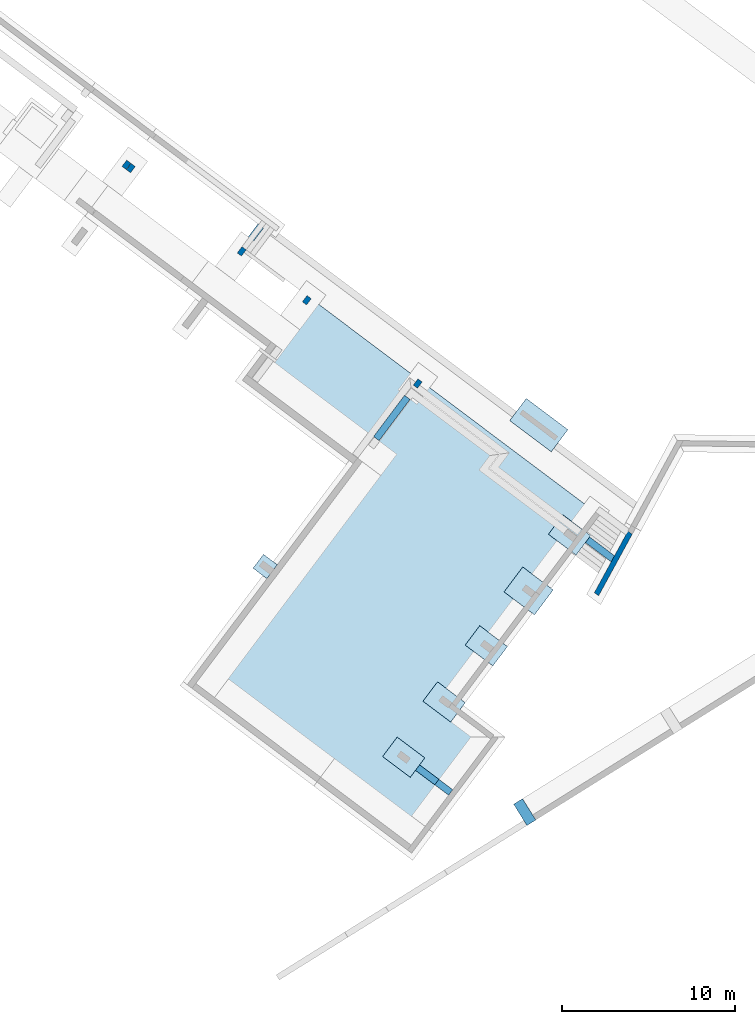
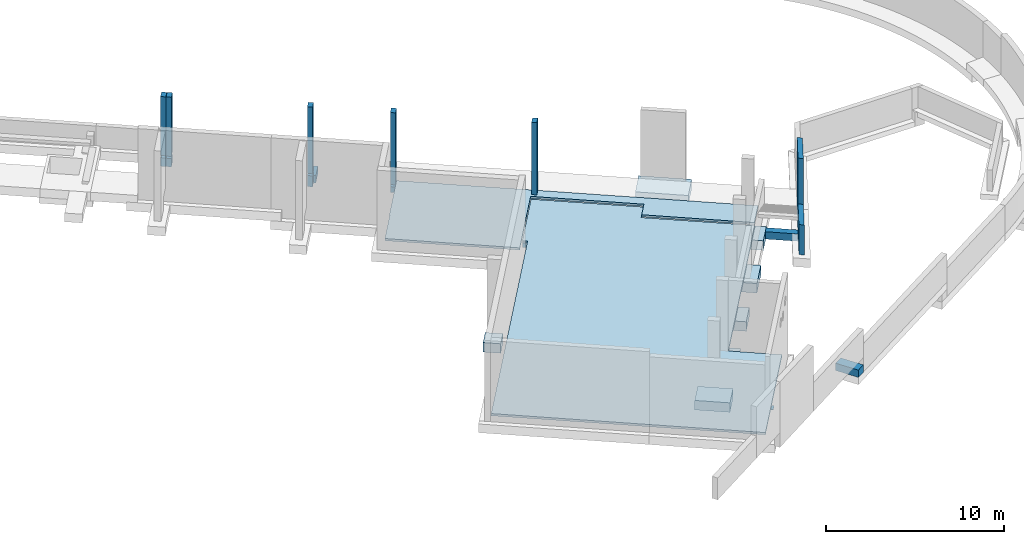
# One storey, part 3 of 9: 10 slabs, 6 columns, 4 beams.
"""IFC2X3 building model written with IfcOpenShell, lengths in metres."""

from ifc_helpers import new_model, entity, si_unit, converted_unit, derived_unit, direction, frame, frame_2d, origin, origin_2d_with_axis, place, context, subcontext, project, spatial, polyline, rectangle, outline, extrude, clip, halfspace, faceted_brep, source, transform, mapped, material, layer, layer_set, layer_usage, type_object, type_shapes, element, save


model = new_model("IFC2X3")

# Units and contexts
model_context = context("Model", 3, precision=1e-05, world=origin(), true_north=direction((6.123031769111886e-17, 1.0)))
body_context = subcontext(model_context, "Body", "Model", "MODEL_VIEW")
ifc_project = project(units=[si_unit("LENGTHUNIT", "METRE"), si_unit("AREAUNIT", "SQUARE_METRE"), si_unit("VOLUMEUNIT", "CUBIC_METRE"), converted_unit("PLANEANGLEUNIT", "DEGREE", entity("IfcRatioMeasure", 0.017453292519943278), si_unit("PLANEANGLEUNIT", "RADIAN"), dimensions=[0, 0, 0, 0, 0, 0, 0]), si_unit("MASSUNIT", "GRAM", prefix="KILO"), derived_unit("MASSDENSITYUNIT", [(si_unit("MASSUNIT", "GRAM", prefix="KILO"), 1), (si_unit("LENGTHUNIT", "METRE"), -3)]), derived_unit("IONCONCENTRATIONUNIT", [(si_unit("MASSUNIT", "GRAM", prefix="KILO"), 1), (si_unit("LENGTHUNIT", "METRE"), -3)]), derived_unit("MOMENTOFINERTIAUNIT", [(si_unit("LENGTHUNIT", "METRE"), 4)]), si_unit("TIMEUNIT", "SECOND"), si_unit("FREQUENCYUNIT", "HERTZ"), si_unit("THERMODYNAMICTEMPERATUREUNIT", "DEGREE_CELSIUS"), derived_unit("THERMALTRANSMITTANCEUNIT", [(si_unit("MASSUNIT", "GRAM", prefix="KILO"), 1), (si_unit("THERMODYNAMICTEMPERATUREUNIT", "KELVIN"), -1), (si_unit("TIMEUNIT", "SECOND"), -3)]), derived_unit("THERMALCONDUCTANCEUNIT", [(si_unit("MASSUNIT", "GRAM", prefix="KILO"), 1), (si_unit("THERMODYNAMICTEMPERATUREUNIT", "KELVIN"), -1), (si_unit("TIMEUNIT", "SECOND"), -3), (si_unit("LENGTHUNIT", "METRE"), 1)]), derived_unit("VOLUMETRICFLOWRATEUNIT", [(si_unit("LENGTHUNIT", "METRE"), 3), (si_unit("TIMEUNIT", "SECOND"), -1)]), derived_unit("MASSFLOWRATEUNIT", [(si_unit("MASSUNIT", "GRAM", prefix="KILO"), 1), (si_unit("TIMEUNIT", "SECOND"), -1)]), derived_unit("ROTATIONALFREQUENCYUNIT", [(si_unit("TIMEUNIT", "SECOND"), -1)]), si_unit("ELECTRICCURRENTUNIT", "AMPERE"), si_unit("ELECTRICVOLTAGEUNIT", "VOLT"), si_unit("POWERUNIT", "WATT"), si_unit("FORCEUNIT", "NEWTON", prefix="KILO"), si_unit("ILLUMINANCEUNIT", "LUX"), si_unit("LUMINOUSFLUXUNIT", "LUMEN"), si_unit("LUMINOUSINTENSITYUNIT", "CANDELA"), derived_unit("USERDEFINED", [(si_unit("MASSUNIT", "GRAM", prefix="KILO"), -1), (si_unit("LENGTHUNIT", "METRE"), -2), (si_unit("TIMEUNIT", "SECOND"), 3), (si_unit("LUMINOUSFLUXUNIT", "LUMEN"), 1)]), derived_unit("USERDEFINED", [(si_unit("MASSUNIT", "GRAM", prefix="KILO"), 1), (si_unit("TIMEUNIT", "SECOND"), -3), (si_unit("LENGTHUNIT", "METRE"), 3), (si_unit("ELECTRICCURRENTUNIT", "AMPERE"), -2)]), derived_unit("SOUNDPOWERUNIT", [(si_unit("MASSUNIT", "GRAM", prefix="KILO"), 1), (si_unit("TIMEUNIT", "SECOND"), -3), (si_unit("LENGTHUNIT", "METRE"), 2)]), derived_unit("SOUNDPRESSUREUNIT", [(si_unit("MASSUNIT", "GRAM", prefix="KILO"), 1), (si_unit("LENGTHUNIT", "METRE"), -1), (si_unit("TIMEUNIT", "SECOND"), -2)]), derived_unit("LINEARVELOCITYUNIT", [(si_unit("LENGTHUNIT", "METRE"), 1), (si_unit("TIMEUNIT", "SECOND"), -1)]), si_unit("PRESSUREUNIT", "PASCAL"), derived_unit("USERDEFINED", [(si_unit("MASSUNIT", "GRAM", prefix="KILO"), 1), (si_unit("LENGTHUNIT", "METRE"), -2), (si_unit("TIMEUNIT", "SECOND"), -2)]), derived_unit("LINEARFORCEUNIT", [(si_unit("MASSUNIT", "GRAM", prefix="KILO"), 1), (si_unit("TIMEUNIT", "SECOND"), -2)]), derived_unit("PLANARFORCEUNIT", [(si_unit("MASSUNIT", "GRAM", prefix="KILO"), 1), (si_unit("LENGTHUNIT", "METRE"), -1), (si_unit("TIMEUNIT", "SECOND"), -2)]), derived_unit("SPECIFICHEATCAPACITYUNIT", [(si_unit("THERMODYNAMICTEMPERATUREUNIT", "KELVIN"), -1), (si_unit("LENGTHUNIT", "METRE"), 2), (si_unit("TIMEUNIT", "SECOND"), -2)]), derived_unit("HEATINGVALUEUNIT", [(si_unit("LENGTHUNIT", "METRE"), 2), (si_unit("TIMEUNIT", "SECOND"), -2)]), derived_unit("VAPORPERMEABILITYUNIT", [(si_unit("LENGTHUNIT", "METRE"), -1), (si_unit("TIMEUNIT", "SECOND"), 1)]), derived_unit("DYNAMICVISCOSITYUNIT", [(si_unit("MASSUNIT", "GRAM", prefix="KILO"), 1), (si_unit("TIMEUNIT", "SECOND"), -1), (si_unit("LENGTHUNIT", "METRE"), -1)]), derived_unit("THERMALEXPANSIONCOEFFICIENTUNIT", [(si_unit("THERMODYNAMICTEMPERATUREUNIT", "KELVIN"), -1)]), derived_unit("MODULUSOFELASTICITYUNIT", [(si_unit("MASSUNIT", "GRAM", prefix="KILO"), 1), (si_unit("LENGTHUNIT", "METRE"), -1), (si_unit("TIMEUNIT", "SECOND"), -2)]), derived_unit("ISOTHERMALMOISTURECAPACITYUNIT", [(si_unit("LENGTHUNIT", "METRE"), 3), (si_unit("MASSUNIT", "GRAM", prefix="KILO"), -1)]), derived_unit("MOISTUREDIFFUSIVITYUNIT", [(si_unit("TIMEUNIT", "SECOND"), -1), (si_unit("LENGTHUNIT", "METRE"), 2)])], contexts=[model_context])

# Site, building, storey
site_placement = place(None, origin())
site = spatial("IfcSite", under=ifc_project, at=site_placement, Name="Default", CompositionType="ELEMENT")
building_placement = place(site_placement, frame((0.0, 0.0, 235.0), z_axis=(0.0, 0.0, 1.0), x_axis=(-0.7996477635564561, 0.6004693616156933, 0.0)))
building = spatial("IfcBuilding", under=site, at=building_placement, CompositionType="ELEMENT")
storey_placement = place(building_placement, frame((0.0, 0.0, -5.4499999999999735)))
storey = spatial("IfcBuildingStorey", under=building, at=storey_placement, Name="PS1- Gimnàs", CompositionType="ELEMENT", Elevation=-5.4499999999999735)

# Columns
ifc_material_1 = material(Name="_Formigó- T1- STR")
column_type_1 = type_object("IfcColumnType", Name="STR- P- Pantalla formigó component:STR- P- Pantalla formigó component", PredefinedType="COLUMN", material=ifc_material_1)
shared_shape_1 = source(origin(), body_context, "Body", "Brep", [
    faceted_brep([(0.5846196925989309, 0.0, 5.209999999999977), (0.8878069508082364, 0.0, 5.209999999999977), (0.5952935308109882, 2.0013928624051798, 5.209999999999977), (0.2921062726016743, 2.0013928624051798, 5.209999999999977), (0.0, 4.0, 0.0), (0.30330792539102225, 4.0, 0.0), (0.8878069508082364, 0.0, 0.0), (0.5846196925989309, 0.0, 0.0), (0.5846196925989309, 0.0, 2.0600000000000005), (0.8878069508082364, 0.0, 2.06), (0.30330792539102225, 4.0, 2.06), (0.5952935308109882, 2.0013928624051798, 2.0600000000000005), (0.2921062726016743, 2.0013928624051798, 2.0600000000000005), (0.0, 4.0, 2.06), (0.5954141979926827, 2.0013928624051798, 2.06)], [[[0, 1, 2, 3]], [[4, 5, 6, 7]], [[1, 0, 8, 7, 6, 9]], [[2, 1, 9, 6, 5, 10, 11]], [[3, 2, 11, 12]], [[0, 3, 12, 13, 4, 7, 8]], [[10, 13, 12, 14]], [[13, 10, 5, 4]]]),
])
type_shapes(column_type_1, [shared_shape_1])
column_1_placement = place(storey_placement, frame((0.09495600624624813, -40.390191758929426, -0.5500000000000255)))
element("IfcColumn", 1, at=column_1_placement, inside=storey, type_object=column_type_1, material=ifc_material_1, Name="STR- P- Pantalla formigó component:STR- P- Pantalla formigó component", ObjectType="STR- P- Pantalla formigó component:STR- P- Pantalla formigó component", context=body_context, shape_type="MappedRepresentation", body=[
    mapped(shared_shape_1, transform((0.0, 0.0, 0.0), scale=1.0)),
])
column_type_2 = type_object("IfcColumnType", Name="STR- P- Formigó- Rectangular- T1:30x45cm", PredefinedType="COLUMN", material=ifc_material_1)
shared_shape_2 = source(origin(), body_context, "Body", "SweptSolid", [
    clip(extrude(rectangle(XDim=0.4500000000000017, YDim=0.3000000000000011, at=frame_2d((0.0, 4.3298697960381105e-15), x_axis=(1.0, 0.0))), frame((36.80996019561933, -39.91519175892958, -5.299999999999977), z_axis=(0.0, 0.0, 1.0), x_axis=(0.0, -1.0, 0.0)), (0.0, 0.0, 1.0), 0.5882962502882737), halfspace(frame((39.091814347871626, -39.94061299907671, -4.669066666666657), z_axis=(-0.019996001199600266, 0.0, 0.9998000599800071), x_axis=(0.9998000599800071, 0.0, 0.019996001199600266)), False)),
    clip(extrude(rectangle(XDim=0.4500000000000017, YDim=0.3000000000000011, at=frame_2d((0.0, 4.3298697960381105e-15), x_axis=(1.0, 0.0))), frame((36.80996019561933, -39.91519175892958, -4.567703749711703), z_axis=(0.0, 0.0, 1.0), x_axis=(0.0, -1.0, 0.0)), (0.0, 0.0, 1.0), 4.047703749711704), halfspace(frame((39.091814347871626, -39.94061299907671, -4.5190666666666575), z_axis=(0.019996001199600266, 0.0, -0.9998000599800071), x_axis=(0.9998000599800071, 0.0, 0.019996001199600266)), False)),
])
type_shapes(column_type_2, [shared_shape_2])
column_2_placement = place(storey_placement, frame((0.0, 0.0, 5.4499999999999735)))
element("IfcColumn", 2, at=column_2_placement, inside=storey, type_object=column_type_2, material=ifc_material_1, Name="STR- P- Formigó- Rectangular- T1:30x45cm", ObjectType="STR- P- Formigó- Rectangular- T1:30x45cm", context=body_context, shape_type="MappedRepresentation", body=[
    mapped(shared_shape_2, transform((0.0, 0.0, 0.0), scale=1.0)),
])
column_type_3 = type_object("IfcColumnType", Name="STR- P- Formigó- Rectangular- T1:30x45cm", PredefinedType="COLUMN", material=ifc_material_1)
shared_shape_3 = source(origin(), body_context, "Body", "SweptSolid", [
    extrude(rectangle(XDim=0.4500000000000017, YDim=0.29999999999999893, at=origin_2d_with_axis()), frame((15.795147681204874, -39.91519175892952, -6.0), z_axis=(0.0, 0.0, 1.0), x_axis=(0.0, -1.0, 0.0)), (0.0, 0.0, 1.0), 0.37000000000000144),
    extrude(rectangle(XDim=0.4500000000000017, YDim=0.29999999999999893, at=origin_2d_with_axis()), frame((15.795147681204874, -39.91519175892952, -5.479999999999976), z_axis=(0.0, 0.0, 1.0), x_axis=(0.0, -1.0, 0.0)), (0.0, 0.0, 1.0), 4.959999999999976),
])
type_shapes(column_type_3, [shared_shape_3])
column_3_placement = place(storey_placement, frame((0.0, 0.0, 5.4499999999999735)))
element("IfcColumn", 3, at=column_3_placement, inside=storey, type_object=column_type_3, material=ifc_material_1, Name="STR- P- Formigó- Rectangular- T1:30x45cm", ObjectType="STR- P- Formigó- Rectangular- T1:30x45cm", context=body_context, shape_type="MappedRepresentation", body=[
    mapped(shared_shape_3, transform((0.0, 0.0, 0.0), scale=1.0)),
])
column_type_4 = type_object("IfcColumnType", Name="STR- P- Formigó- Rectangular- T1:30x45cm", PredefinedType="COLUMN", material=ifc_material_1)
shared_shape_4 = source(origin(), body_context, "Body", "SweptSolid", [
    clip(extrude(rectangle(XDim=0.4500000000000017, YDim=0.3000000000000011, at=frame_2d((0.0, 2.1649348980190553e-15), x_axis=(1.0, 0.0))), frame((23.79514768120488, -39.91519175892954, -6.0), z_axis=(0.0, 0.0, 1.0), x_axis=(0.0, -1.0, 0.0)), (0.0, 0.0, 1.0), 0.3940257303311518), halfspace(frame((26.144976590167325, -38.467691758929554, -5.42999999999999), z_axis=(-0.07973979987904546, 0.0, 0.99681571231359), x_axis=(0.0, -1.0, 0.0)), False)),
    clip(extrude(rectangle(XDim=0.4500000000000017, YDim=0.3000000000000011, at=frame_2d((0.0, 2.1649348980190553e-15), x_axis=(1.0, 0.0))), frame((23.79514768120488, -39.91519175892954, -5.479972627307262), z_axis=(0.0, 0.0, 1.0), x_axis=(0.0, -1.0, 0.0)), (0.0, 0.0, 1.0), 4.959972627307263), halfspace(frame((26.144976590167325, -38.467691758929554, -5.2799999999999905), z_axis=(0.07973979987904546, 0.0, -0.99681571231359), x_axis=(0.0, -1.0, 0.0)), False)),
])
type_shapes(column_type_4, [shared_shape_4])
column_4_placement = place(storey_placement, frame((0.0, 0.0, 5.4499999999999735)))
element("IfcColumn", 4, at=column_4_placement, inside=storey, type_object=column_type_4, material=ifc_material_1, Name="STR- P- Formigó- Rectangular- T1:30x45cm", ObjectType="STR- P- Formigó- Rectangular- T1:30x45cm", context=body_context, shape_type="MappedRepresentation", body=[
    mapped(shared_shape_4, transform((0.0, 0.0, 0.0), scale=1.0)),
])
column_type_5 = type_object("IfcColumnType", Name="STR- P- Formigó- Rectangular- T1:30x45cm", PredefinedType="COLUMN", material=ifc_material_1)
shared_shape_5 = source(origin(), body_context, "Body", "SweptSolid", [
    clip(extrude(rectangle(XDim=0.4500000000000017, YDim=0.3000000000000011, at=frame_2d((0.0, 2.1649348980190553e-15), x_axis=(1.0, 0.0))), frame((36.49514768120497, -39.91519175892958, -5.299999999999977), z_axis=(0.0, 0.0, 1.0), x_axis=(0.0, -1.0, 0.0)), (0.0, 0.0, 1.0), 0.5799999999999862), halfspace(frame((33.64514768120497, -39.40269175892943, -4.959999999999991), z_axis=(-0.07974522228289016, 0.0, 0.9968152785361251), x_axis=(-0.9968152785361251, 0.0, -0.07974522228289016)), False)),
    clip(extrude(rectangle(XDim=0.4500000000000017, YDim=0.3000000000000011, at=frame_2d((0.0, 2.1649348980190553e-15), x_axis=(1.0, 0.0))), frame((36.49514768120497, -39.91519175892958, -4.5939999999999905), z_axis=(0.0, 0.0, 1.0), x_axis=(0.0, -1.0, 0.0)), (0.0, 0.0, 1.0), 4.073999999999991), halfspace(frame((33.64514768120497, -39.40269175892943, -4.809999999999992), z_axis=(0.07974522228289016, 0.0, -0.9968152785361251), x_axis=(-0.9968152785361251, 0.0, -0.07974522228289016)), False)),
])
type_shapes(column_type_5, [shared_shape_5])
column_5_placement = place(storey_placement, frame((0.0, 0.0, 5.4499999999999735)))
element("IfcColumn", 5, at=column_5_placement, inside=storey, type_object=column_type_5, material=ifc_material_1, Name="STR- P- Formigó- Rectangular- T1:30x45cm", ObjectType="STR- P- Formigó- Rectangular- T1:30x45cm", context=body_context, shape_type="MappedRepresentation", body=[
    mapped(shared_shape_5, transform((0.0, 0.0, 0.0), scale=1.0)),
])
column_type_6 = type_object("IfcColumnType", Name="STR- P- Formigó- Rectangular- T1:30x45cm", PredefinedType="COLUMN", material=ifc_material_1)
shared_shape_6 = source(origin(), body_context, "Body", "SweptSolid", [
    clip(extrude(rectangle(XDim=0.4500000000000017, YDim=0.3000000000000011, at=frame_2d((0.0, 2.1649348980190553e-15), x_axis=(1.0, 0.0))), frame((28.495147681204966, -39.91519175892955, -6.0), z_axis=(0.0, 0.0, 1.0), x_axis=(0.0, -1.0, 0.0)), (0.0, 0.0, 1.0), 0.7699999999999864), halfspace(frame((26.144976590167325, -38.467691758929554, -5.42999999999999), z_axis=(-0.07973979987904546, 0.0, 0.99681571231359), x_axis=(0.0, -1.0, 0.0)), False)),
    clip(extrude(rectangle(XDim=0.4500000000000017, YDim=0.3000000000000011, at=frame_2d((0.0, 2.1649348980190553e-15), x_axis=(1.0, 0.0))), frame((28.495147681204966, -39.91519175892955, -5.103998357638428), z_axis=(0.0, 0.0, 1.0), x_axis=(0.0, -1.0, 0.0)), (0.0, 0.0, 1.0), 4.5839983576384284), halfspace(frame((26.144976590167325, -38.467691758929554, -5.2799999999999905), z_axis=(0.07973979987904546, 0.0, -0.99681571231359), x_axis=(0.0, -1.0, 0.0)), False)),
])
type_shapes(column_type_6, [shared_shape_6])
column_6_placement = place(storey_placement, frame((0.0, 0.0, 5.4499999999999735)))
element("IfcColumn", 6, at=column_6_placement, inside=storey, type_object=column_type_6, material=ifc_material_1, Name="STR- P- Formigó- Rectangular- T1:30x45cm", ObjectType="STR- P- Formigó- Rectangular- T1:30x45cm", context=body_context, shape_type="MappedRepresentation", body=[
    mapped(shared_shape_6, transform((0.0, 0.0, 0.0), scale=1.0)),
])

# Beams
beam_type_1 = type_object("IfcBeamType", Name="STR- R- Formigó- Rectangular- T1:40x60 cm", PredefinedType="BEAM", material=ifc_material_1)
shared_shape_7 = source(origin(), body_context, "Body", "SweptSolid", [
    extrude(rectangle(XDim=0.6000000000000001, YDim=0.40000000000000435, at=frame_2d((-1.0824674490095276e-15, 4.3298697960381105e-15), x_axis=(1.0, 0.0))), frame((2.495147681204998, -22.19019175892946, -6.299999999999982), z_axis=(-1.0, 0.0, 0.0), x_axis=(0.0, 0.0, -1.0)), (0.0, 0.0, 1.0), 1.38931426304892),
    extrude(rectangle(XDim=0.04999999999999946, YDim=0.40000000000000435, at=frame_2d((5.412337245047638e-16, 8.659739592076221e-15), x_axis=(1.0, 0.0))), frame((2.495147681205, -22.190191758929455, -6.62499999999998), z_axis=(-1.0, 0.0, 0.0), x_axis=(0.0, 0.0, -1.0)), (0.0, 0.0, 1.0), 2.3891571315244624),
])
type_shapes(beam_type_1, [shared_shape_7])
beam_1_placement = place(storey_placement, frame((0.0, 0.0, 5.4499999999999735)))
element("IfcBeam", 7, at=beam_1_placement, inside=storey, type_object=beam_type_1, material=ifc_material_1, Name="STR- R- Formigó- Rectangular- T1:40x60 cm", ObjectType="STR- R- Formigó- Rectangular- T1:40x60 cm", context=body_context, shape_type="MappedRepresentation", body=[
    mapped(shared_shape_7, transform((0.0, 0.0, 0.0), scale=1.0)),
])
beam_type_2 = type_object("IfcBeamType", Name="STR- R- Formigó- Rectangular- T1:40x45 cm", PredefinedType="BEAM", material=ifc_material_1)
shared_shape_8 = source(origin(), body_context, "Body", "SweptSolid", [
    extrude(rectangle(XDim=0.4499999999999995, YDim=0.40000000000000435, at=frame_2d((1.0824674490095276e-15, 8.659739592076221e-15), x_axis=(1.0, 0.0))), frame((2.5451476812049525, -38.59019175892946, -6.224999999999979), z_axis=(-1.0, 0.0, 0.0), x_axis=(0.0, 0.0, -1.0)), (0.0, 0.0, 1.0), 1.9227000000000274),
    extrude(rectangle(XDim=0.04999999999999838, YDim=0.4, at=frame_2d((-5.412337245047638e-16, 6.494804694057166e-15), x_axis=(1.0, 0.0))), frame((2.5451476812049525, -38.590191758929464, -6.47499999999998), z_axis=(-1.0, 0.0, 0.0), x_axis=(0.0, 0.0, -1.0)), (0.0, 0.0, 1.0), 1.9227000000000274),
])
type_shapes(beam_type_2, [shared_shape_8])
beam_2_placement = place(storey_placement, frame((0.0, 0.0, 5.4499999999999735)))
element("IfcBeam", 8, at=beam_2_placement, inside=storey, type_object=beam_type_2, material=ifc_material_1, Name="STR- R- Formigó- Rectangular- T1:40x45 cm", ObjectType="STR- R- Formigó- Rectangular- T1:40x45 cm", context=body_context, shape_type="MappedRepresentation", body=[
    mapped(shared_shape_8, transform((0.0, 0.0, 0.0), scale=1.0)),
])
beam_type_3 = type_object("IfcBeamType", Name="STR- R- Formigó- Rectangular- T1:40x45 cm", PredefinedType="BEAM", material=ifc_material_1)
shared_shape_9 = source(origin(), body_context, "Body", "SweptSolid", [
    extrude(rectangle(XDim=0.45000000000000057, YDim=0.40000000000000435, at=frame_2d((4.3298697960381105e-15, -1.6237011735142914e-15), x_axis=(0.0, 1.0))), frame((28.49514768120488, -41.7401899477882, -6.224999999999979), z_axis=(0.0, 1.0, 0.0), x_axis=(-1.0, 0.0, 0.0)), (0.0, 0.0, 1.0), 0.9249981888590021),
    extrude(rectangle(XDim=0.0499999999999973, YDim=0.40000000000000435, at=frame_2d((-2.1649348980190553e-15, -1.6237011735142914e-15), x_axis=(0.0, 1.0))), frame((28.49514768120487, -41.7401899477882, -6.474999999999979), z_axis=(0.0, 1.0, 0.0), x_axis=(-1.0, 0.0, 0.0)), (0.0, 0.0, 1.0), 0.9249981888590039),
])
type_shapes(beam_type_3, [shared_shape_9])
beam_3_placement = place(storey_placement, frame((0.0, 0.0, 5.4499999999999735)))
element("IfcBeam", 9, at=beam_3_placement, inside=storey, type_object=beam_type_3, material=ifc_material_1, Name="STR- R- Formigó- Rectangular- T1:40x45 cm", ObjectType="STR- R- Formigó- Rectangular- T1:40x45 cm", context=body_context, shape_type="MappedRepresentation", body=[
    mapped(shared_shape_9, transform((0.0, 0.0, 0.0), scale=1.0)),
])
beam_type_4 = type_object("IfcBeamType", Name="STR- R- Formigó- Rectangular- T1:40x45 cm", PredefinedType="BEAM", material=ifc_material_1)
shared_shape_10 = source(origin(), body_context, "Body", "SweptSolid", [
    extrude(rectangle(XDim=0.4499999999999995, YDim=0.40000000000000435, at=frame_2d((0.0, -6.494804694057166e-15), x_axis=(0.0, 1.0))), frame((15.795147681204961, -38.91519175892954, -6.2249999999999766), z_axis=(0.0, 1.0, 0.0), x_axis=(-1.0, 0.0, 0.0)), (0.0, 0.0, 1.0), 2.9759878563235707),
    extrude(rectangle(XDim=0.0499999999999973, YDim=0.4, at=frame_2d((0.0, -4.872838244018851e-15), x_axis=(0.0, 1.0))), frame((15.79514768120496, -38.91519175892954, -6.4749999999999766), z_axis=(0.0, 1.0, 0.0), x_axis=(-1.0, 0.0, 0.0)), (0.0, 0.0, 1.0), 2.975987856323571),
])
type_shapes(beam_type_4, [shared_shape_10])
beam_4_placement = place(storey_placement, frame((0.0, 0.0, 5.4499999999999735)))
element("IfcBeam", 10, at=beam_4_placement, inside=storey, type_object=beam_type_4, material=ifc_material_1, Name="STR- R- Formigó- Rectangular- T1:40x45 cm", ObjectType="STR- R- Formigó- Rectangular- T1:40x45 cm", context=body_context, shape_type="MappedRepresentation", body=[
    mapped(shared_shape_10, transform((0.0, 0.0, 0.0), scale=1.0)),
])

# Slabs
ifc_material_2 = material(Name="_Formigó- Solera- T1- STR")
ifc_layer_1 = layer(ifc_material_2, 0.14999999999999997)
ifc_layer_set_1 = layer_set([ifc_layer_1], Name="Suelo:STR- L- Formigó- Solera- T1- 15 cm")
ifc_layer_usage_1 = layer_usage(ifc_layer_set_1, "AXIS3", "POSITIVE", 0.0)
slab_type_1 = type_object("IfcSlabType", Name="Suelo:STR- L- Formigó- Solera- T1- 15 cm", PredefinedType="FLOOR", material=ifc_layer_set_1)
slab_1_placement = place(storey_placement, origin())
element("IfcSlab", 11, at=slab_1_placement, inside=storey, type_object=slab_type_1, material=ifc_layer_usage_1, Name="Suelo:STR- L- Formigó- Solera- T1- 15 cm", ObjectType="Suelo:STR- L- Formigó- Solera- T1- 15 cm", PredefinedType="FLOOR", context=body_context, shape_type="SweptSolid", body=[
    extrude(outline(polyline([(5.495082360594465, -8.779451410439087), (13.194879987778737, -8.779451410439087), (13.194879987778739, 6.759862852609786), (-3.8401270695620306, 6.759862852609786), (-3.8401270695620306, 7.059862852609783), (-7.944917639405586, 7.059862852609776), (-7.944917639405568, 0.6998628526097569), (-6.9049176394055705, 0.6998628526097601), (-6.904917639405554, -5.74013714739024), (5.495082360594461, -5.74013714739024), (5.495082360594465, -8.779451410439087)])), frame((8.88528482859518, -31.535071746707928, -0.20000000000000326), z_axis=(0.0, 0.0, -1.0), x_axis=(0.0, 1.0, 0.0)), (0.0, 0.0, 1.0), 0.14999999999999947),
])
ifc_material_3 = material(Name="_Formigó- Solera- T1 ext- STR")
ifc_layer_2 = layer(ifc_material_3, 0.14999999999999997)
ifc_layer_set_2 = layer_set([ifc_layer_2], Name="Suelo:STR- L- Formigó- Solera exterior- T1- 15 cm")
ifc_layer_usage_2 = layer_usage(ifc_layer_set_2, "AXIS3", "POSITIVE", 0.0)
slab_type_2 = type_object("IfcSlabType", Name="Suelo:STR- L- Formigó- Solera exterior- T1- 15 cm", PredefinedType="FLOOR", material=ifc_layer_set_2)
slab_2_placement = place(storey_placement, origin())
element("IfcSlab", 12, at=slab_2_placement, inside=storey, type_object=slab_type_2, material=ifc_layer_usage_2, Name="Suelo:STR- L- Formigó- Solera exterior- T1- 15 cm", ObjectType="Suelo:STR- L- Formigó- Solera exterior- T1- 15 cm", PredefinedType="FLOOR", context=body_context, shape_type="SweptSolid", body=[
    extrude(outline(polyline([(-2.2792785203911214, -12.017863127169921), (-0.6090761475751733, -12.017863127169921), (-0.6090761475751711, -5.637863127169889), (-1.6490761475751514, -5.637863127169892), (-1.6490761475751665, 0.7821368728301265), (3.441709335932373, 0.7821368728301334), (3.44170933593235, 8.421794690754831), (1.0957214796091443, 8.421794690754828), (1.0957214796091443, 8.451794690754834), (-2.2792785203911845, 8.451794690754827), (-2.2792785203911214, -12.017863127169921)])), frame((15.193010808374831, -37.86091323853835, -0.030000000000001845), z_axis=(0.0, 0.0, -1.0), x_axis=(0.0, 1.0, 0.0)), (0.0, 0.0, 1.0), 0.14999999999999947),
])
slab_type_3 = type_object("IfcSlabType", Name="STR- S- Formigó- Rectangular- T1:100x100x60 cm", PredefinedType="BASESLAB", material=ifc_material_1)
slab_3_placement = place(storey_placement, frame((15.995147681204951, -26.690191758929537, -1.2000000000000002)))
element("IfcSlab", 13, at=slab_3_placement, inside=storey, type_object=slab_type_3, Name="STR- S- Formigó- Rectangular- T1:100x100x60 cm", ObjectType="STR- S- Formigó- Rectangular- T1:100x100x60 cm", PredefinedType="BASESLAB", context=body_context, shape_type="SweptSolid", body=[
    extrude(rectangle(XDim=0.9999999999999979, YDim=1.0, at=frame_2d((-1.3877787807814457e-16, 0.06666666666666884), x_axis=(1.0, 0.0))), frame((0.4333333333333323, 0.4999999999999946, 0.0499999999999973), z_axis=(0.0, 0.0, 1.0), x_axis=(0.0, -1.0, 0.0)), (0.0, 0.0, 1.0), 0.6000000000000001),
    extrude(rectangle(XDim=0.9999999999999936, YDim=0.9999999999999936, at=frame_2d((0.0, 1.0824674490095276e-15), x_axis=(1.0, 0.0))), frame((0.5000000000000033, 0.49999999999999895, 0.0), z_axis=(0.0, 0.0, 1.0), x_axis=(0.0, 1.0, 0.0)), (0.0, 0.0, 1.0), 0.04999999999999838),
])
slab_type_4 = type_object("IfcSlabType", Name="STR- S- Formigó- Rectangular- T1:140x200x60 cm", PredefinedType="BASESLAB", material=ifc_material_1)
slab_4_placement = place(storey_placement, frame((2.4951476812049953, -22.890191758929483, -1.2000000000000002)))
element("IfcSlab", 14, at=slab_4_placement, inside=storey, type_object=slab_type_4, Name="STR- S- Formigó- Rectangular- T1:140x200x60 cm", ObjectType="STR- S- Formigó- Rectangular- T1:140x200x60 cm", PredefinedType="BASESLAB", context=body_context, shape_type="SweptSolid", body=[
    extrude(rectangle(XDim=1.399999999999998, YDim=1.9999999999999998, at=frame_2d((4.9960036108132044e-15, 0.33333333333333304), x_axis=(1.0, 0.0))), frame((0.6666666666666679, 0.7000000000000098, 0.0499999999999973), z_axis=(0.0, 0.0, 1.0), x_axis=(0.0, -1.0, 0.0)), (0.0, 0.0, 1.0), 0.6000000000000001),
    extrude(rectangle(XDim=1.3999999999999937, YDim=1.9999999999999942, at=frame_2d((-4.9404924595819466e-15, -0.3333333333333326), x_axis=(1.0, 0.0))), frame((0.6666666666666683, 0.7000000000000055, 0.0), z_axis=(0.0, 0.0, 1.0), x_axis=(0.0, 1.0, 0.0)), (0.0, 0.0, 1.0), 0.04999999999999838),
])
slab_5_placement = place(storey_placement, frame((2.5451476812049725, -26.83998938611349, -1.2000000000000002)))
element("IfcSlab", 15, at=slab_5_placement, inside=storey, type_object=slab_type_4, Name="STR- S- Formigó- Rectangular- T1:140x200x60 cm", ObjectType="STR- S- Formigó- Rectangular- T1:140x200x60 cm", PredefinedType="BASESLAB", context=body_context, shape_type="SweptSolid", body=[
    extrude(rectangle(XDim=1.399999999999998, YDim=1.9999999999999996, at=frame_2d((-0.19999999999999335, 0.09999999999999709), x_axis=(1.0, 0.0))), frame((0.9000000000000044, 0.500000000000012, 0.0499999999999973), z_axis=(0.0, 0.0, 1.0), x_axis=(0.0, -1.0, 0.0)), (0.0, 0.0, 1.0), 0.6000000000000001),
    extrude(rectangle(XDim=1.3999999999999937, YDim=1.9999999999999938, at=frame_2d((0.0, 2.7755575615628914e-16), x_axis=(1.0, 0.0))), frame((1.0, 0.7000000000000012, 0.0), z_axis=(0.0, 0.0, 1.0), x_axis=(0.0, 1.0, 0.0)), (0.0, 0.0, 1.0), 0.04999999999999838),
])
slab_6_placement = place(storey_placement, frame((2.5451476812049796, -30.890191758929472, -1.2000000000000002)))
element("IfcSlab", 16, at=slab_6_placement, inside=storey, type_object=slab_type_4, Name="STR- S- Formigó- Rectangular- T1:140x200x60 cm", ObjectType="STR- S- Formigó- Rectangular- T1:140x200x60 cm", PredefinedType="BASESLAB", context=body_context, shape_type="SweptSolid", body=[
    extrude(rectangle(XDim=1.399999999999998, YDim=1.9999999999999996, at=frame_2d((4.052314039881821e-15, -0.13333333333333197), x_axis=(1.0, 0.0))), frame((1.1333333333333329, 0.7000000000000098, 0.0499999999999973), z_axis=(0.0, 0.0, 1.0), x_axis=(0.0, -1.0, 0.0)), (0.0, 0.0, 1.0), 0.6000000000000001),
    extrude(rectangle(XDim=1.3999999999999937, YDim=1.9999999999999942, at=frame_2d((0.0, -2.7755575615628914e-16), x_axis=(1.0, 0.0))), frame((1.0, 0.7000000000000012, 0.0), z_axis=(0.0, 0.0, 1.0), x_axis=(0.0, 1.0, 0.0)), (0.0, 0.0, 1.0), 0.04999999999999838),
])
slab_7_placement = place(storey_placement, frame((2.54514768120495, -38.890191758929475, -1.2000000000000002)))
element("IfcSlab", 17, at=slab_7_placement, inside=storey, type_object=slab_type_4, Name="STR- S- Formigó- Rectangular- T1:140x200x60 cm", ObjectType="STR- S- Formigó- Rectangular- T1:140x200x60 cm", PredefinedType="BASESLAB", context=body_context, shape_type="SweptSolid", body=[
    extrude(rectangle(XDim=1.399999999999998, YDim=1.9999999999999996, at=frame_2d((-2.7755575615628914e-16, -0.1333333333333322), x_axis=(1.0, 0.0))), frame((1.1333333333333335, 0.7000000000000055, 0.0499999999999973), z_axis=(0.0, 0.0, 1.0), x_axis=(0.0, -1.0, 0.0)), (0.0, 0.0, 1.0), 0.6000000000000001),
    extrude(rectangle(XDim=1.3999999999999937, YDim=1.9999999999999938, at=frame_2d((0.0, 2.7755575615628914e-16), x_axis=(1.0, 0.0))), frame((1.0, 0.7000000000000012, 0.0), z_axis=(0.0, 0.0, 1.0), x_axis=(0.0, 1.0, 0.0)), (0.0, 0.0, 1.0), 0.04999999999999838),
])
slab_type_5 = type_object("IfcSlabType", Name="STR- S- Formigó- Rectangular- T1:180x220x60 cm", PredefinedType="BASESLAB", material=ifc_material_1)
slab_8_placement = place(storey_placement, frame((2.395147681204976, -35.09019175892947, -1.2000000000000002)))
element("IfcSlab", 18, at=slab_8_placement, inside=storey, type_object=slab_type_5, Name="STR- S- Formigó- Rectangular- T1:180x220x60 cm", ObjectType="STR- S- Formigó- Rectangular- T1:180x220x60 cm", PredefinedType="BASESLAB", context=body_context, shape_type="SweptSolid", body=[
    extrude(rectangle(XDim=1.799999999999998, YDim=2.1999999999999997, at=frame_2d((2.3314683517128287e-15, 0.1250000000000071), x_axis=(1.0, 0.0))), frame((0.9749999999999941, 0.9000000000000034, 0.0499999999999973), z_axis=(0.0, 0.0, 1.0), x_axis=(0.0, -1.0, 0.0)), (0.0, 0.0, 1.0), 0.6000000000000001),
    extrude(rectangle(XDim=1.7999999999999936, YDim=2.199999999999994, at=frame_2d((-2.1649348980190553e-15, 3.3306690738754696e-16), x_axis=(1.0, 0.0))), frame((1.100000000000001, 0.9000000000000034, 0.0), z_axis=(0.0, 0.0, 1.0), x_axis=(0.0, 1.0, 0.0)), (0.0, 0.0, 1.0), 0.04999999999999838),
])
slab_type_6 = type_object("IfcSlabType", Name="STR- S- Formigó- Rectangular- T1:160x300x60 cm", PredefinedType="BASESLAB", material=ifc_material_1)
slab_9_placement = place(storey_placement, frame((7.270147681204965, -42.99019175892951, -1.2000000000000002)))
element("IfcSlab", 19, at=slab_9_placement, inside=storey, type_object=slab_type_6, Name="STR- S- Formigó- Rectangular- T1:160x300x60 cm", ObjectType="STR- S- Formigó- Rectangular- T1:160x300x60 cm", PredefinedType="BASESLAB", context=body_context, shape_type="SweptSolid", body=[
    extrude(rectangle(XDim=1.6, YDim=2.999999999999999, at=frame_2d((4.3298697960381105e-15, -5.551115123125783e-16), x_axis=(1.0, 0.0))), frame((1.500000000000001, 0.8000000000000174, 0.0499999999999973), z_axis=(0.0, 0.0, 1.0), x_axis=(0.0, -1.0, 0.0)), (0.0, 0.0, 1.0), 0.6000000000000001),
    extrude(rectangle(XDim=1.5999999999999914, YDim=2.999999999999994, at=frame_2d((0.0, 1.1102230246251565e-15), x_axis=(1.0, 0.0))), frame((1.500000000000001, 0.8000000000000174, 0.0), z_axis=(0.0, 0.0, 1.0), x_axis=(0.0, 1.0, 0.0)), (0.0, 0.0, 1.0), 0.04999999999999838),
])
slab_type_7 = type_object("IfcSlabType", Name="STR- Sabata- Unio sabata MP2:STR- Sabata- Unio sabata MP1", PredefinedType="BASESLAB", material=ifc_material_1)
slab_10_placement = place(storey_placement, frame((-4.773153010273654, -24.391601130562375, 0.5249999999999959)))
element("IfcSlab", 20, at=slab_10_placement, inside=storey, type_object=slab_type_7, Name="STR- Sabata- Unio sabata MP2:STR- Sabata- Unio sabata MP1", ObjectType="STR- Sabata- Unio sabata MP2:STR- Sabata- Unio sabata MP1", PredefinedType="BASESLAB", context=body_context, shape_type="SweptSolid", body=[
    extrude(rectangle(XDim=0.6000000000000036, YDim=1.449999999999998, at=frame_2d((0.0988380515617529, -3.6637359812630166e-15), x_axis=(1.0, 0.0))), frame((0.8200484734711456, 0.6334638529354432, 0.0), z_axis=(0.0, 0.0, 1.0), x_axis=(-0.3606427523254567, -0.9327040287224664, 0.0)), (0.0, 0.0, 1.0), 0.5000000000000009),
])

save(model, "model.ifc")
